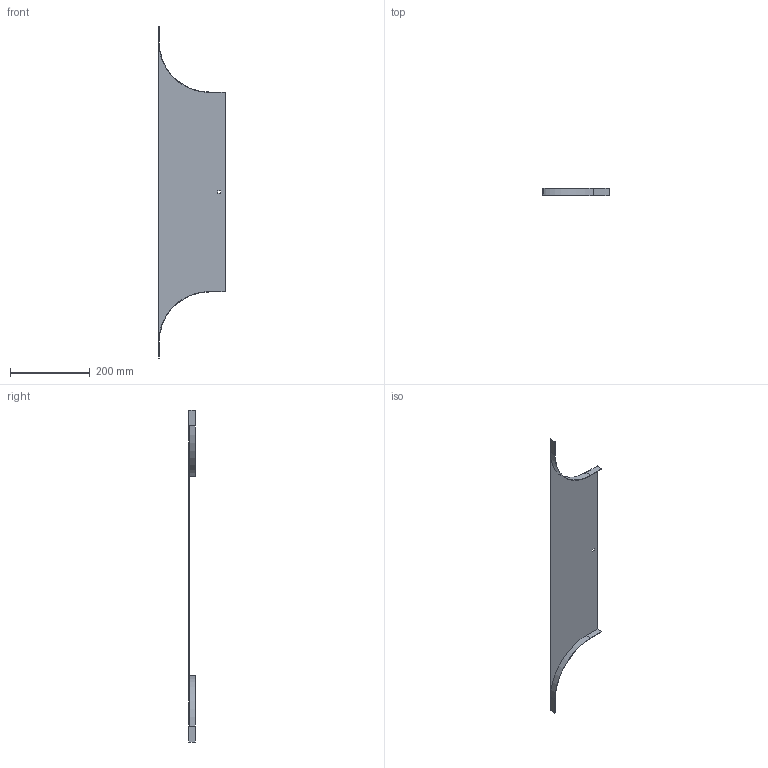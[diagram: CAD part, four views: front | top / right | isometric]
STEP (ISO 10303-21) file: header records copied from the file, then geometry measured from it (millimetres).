
FILE_DESCRIPTION (( 'STEP AP214' ), '1' );
FILE_NAME ('ORL_500.step', '2025-07-16T09:16:06', ( '' ), ( '' ), 'SwSTEP 2.0', 'SolidWorks 2023', '' );
FILE_SCHEMA (( 'AUTOMOTIVE_DESIGN' ));
Length unit declared in the file: millimetre
Products named in the file (1): ORL_500
Bounding box: 167 x 17 x 834 mm (x, y, z)
Volume: 99856.6 mm3; surface area: 201697.1 mm2
Topology: 1 solids, 1 shells, 22 faces, 60 edges, 40 vertices
Faces by surface type: plane 18, cylinder 4
Entity records: 719 total; most frequent: CARTESIAN_POINT 123, ORIENTED_EDGE 120, DIRECTION 114, EDGE_CURVE 60, LINE 52, VECTOR 52, VERTEX_POINT 40, AXIS2_PLACEMENT_3D 31
